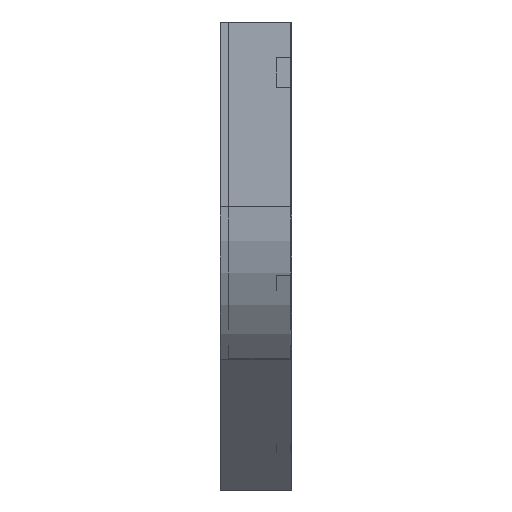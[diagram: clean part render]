
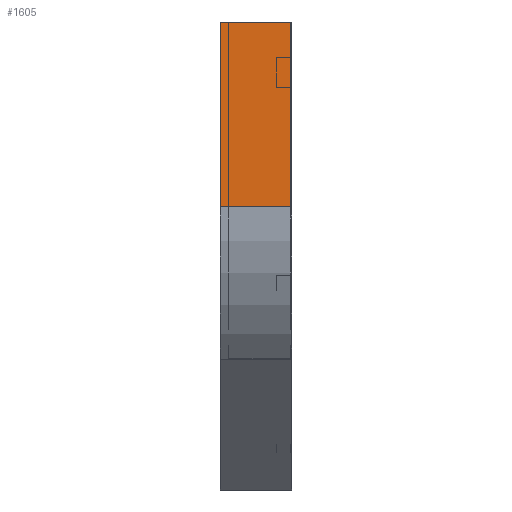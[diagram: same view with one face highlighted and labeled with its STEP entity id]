
A CAD part, left-side view. The second image highlights one B-rep face of the part: STEP entity #1605.
In plain terms, the highlighted planar face has unit normal (-1, 0, 0).
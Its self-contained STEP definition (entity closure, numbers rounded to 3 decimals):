
#6 = LINE ( 'NONE', #1597, #1256 ) ;
#9 = CARTESIAN_POINT ( 'NONE',  ( 0., 0., 0. ) ) ;
#18 = VECTOR ( 'NONE', #1689, 1000. ) ;
#39 = CARTESIAN_POINT ( 'NONE',  ( 0., 0., 0. ) ) ;
#87 = ORIENTED_EDGE ( 'NONE', *, *, #1490, .F. ) ;
#131 = CARTESIAN_POINT ( 'NONE',  ( 0., 100., -257.107 ) ) ;
#245 = EDGE_CURVE ( 'NONE', #670, #317, #6, .T. ) ;
#317 = VERTEX_POINT ( 'NONE', #39 ) ;
#326 = CARTESIAN_POINT ( 'NONE',  ( 0., 100., 0. ) ) ;
#373 = LINE ( 'NONE', #1809, #18 ) ;
#446 = DIRECTION ( 'NONE',  ( 0., 0., -1. ) ) ;
#468 = EDGE_CURVE ( 'NONE', #1013, #589, #373, .T. ) ;
#483 = CARTESIAN_POINT ( 'NONE',  ( 0., 0., 0. ) ) ;
#517 = LINE ( 'NONE', #948, #1589 ) ;
#589 = VERTEX_POINT ( 'NONE', #974 ) ;
#670 = VERTEX_POINT ( 'NONE', #326 ) ;
#704 = ORIENTED_EDGE ( 'NONE', *, *, #468, .T. ) ;
#765 = DIRECTION ( 'NONE',  ( 1., 0., 0. ) ) ;
#798 = DIRECTION ( 'NONE',  ( 0., 0., -1. ) ) ;
#925 = AXIS2_PLACEMENT_3D ( 'NONE', #483, #765, #1348 ) ;
#948 = CARTESIAN_POINT ( 'NONE',  ( 0., 100., 0. ) ) ;
#974 = CARTESIAN_POINT ( 'NONE',  ( 0., 0., -257.107 ) ) ;
#1001 = DIRECTION ( 'NONE',  ( 0., -1., 0. ) ) ;
#1013 = VERTEX_POINT ( 'NONE', #131 ) ;
#1069 = ORIENTED_EDGE ( 'NONE', *, *, #245, .F. ) ;
#1086 = EDGE_CURVE ( 'NONE', #670, #1013, #517, .T. ) ;
#1206 = FACE_OUTER_BOUND ( 'NONE', #1399, .T. ) ;
#1230 = VECTOR ( 'NONE', #446, 1000. ) ;
#1256 = VECTOR ( 'NONE', #1001, 1000. ) ;
#1268 = ORIENTED_EDGE ( 'NONE', *, *, #1086, .T. ) ;
#1307 = LINE ( 'NONE', #9, #1230 ) ;
#1348 = DIRECTION ( 'NONE',  ( 0., 0., -1. ) ) ;
#1399 = EDGE_LOOP ( 'NONE', ( #87, #1069, #1268, #704 ) ) ;
#1490 = EDGE_CURVE ( 'NONE', #317, #589, #1307, .T. ) ;
#1589 = VECTOR ( 'NONE', #798, 1000. ) ;
#1597 = CARTESIAN_POINT ( 'NONE',  ( 0., 0., 0. ) ) ;
#1605 = ADVANCED_FACE ( 'NONE', ( #1206 ), #1764, .F. ) ;
#1689 = DIRECTION ( 'NONE',  ( 0., -1., 0. ) ) ;
#1764 = PLANE ( 'NONE',  #925 ) ;
#1809 = CARTESIAN_POINT ( 'NONE',  ( 0., 0., -257.107 ) ) ;
